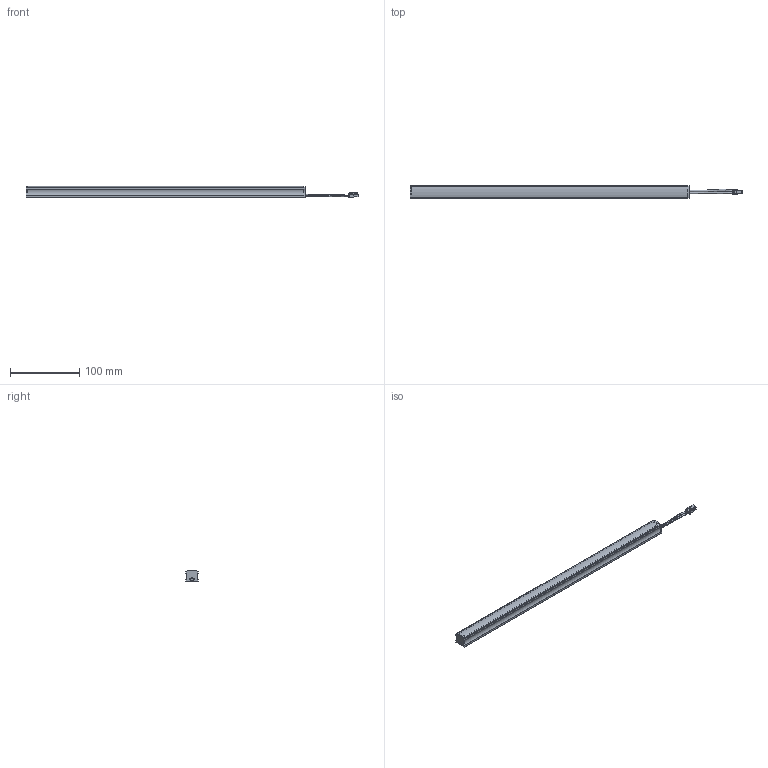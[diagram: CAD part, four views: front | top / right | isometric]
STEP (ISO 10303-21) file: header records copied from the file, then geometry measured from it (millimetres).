
FILE_DESCRIPTION (( 'STEP AP214' ), '1' );
FILE_NAME ('LuganoCompleto.STEP', '2022-02-18T09:56:11', ( '' ), ( '' ), 'SwSTEP 2.0', 'SolidWorks 2021', '' );
FILE_SCHEMA (( 'AUTOMOTIVE_DESIGN' ));
Length unit declared in the file: millimetre
Products named in the file (1): LuganoCompleto
Bounding box: 480.51 x 17.4 x 16.16 mm (x, y, z)
Surface area: 61368.1 mm2 (no closed solid volume)
Topology: 0 solids, 7 shells, 349 faces, 954 edges, 620 vertices
Faces by surface type: plane 207, cylinder 116, bspline 23, sphere 3
Entity records: 19735 total; most frequent: CARTESIAN_POINT 7018, ORIENTED_EDGE 1900, DIRECTION 1754, EDGE_CURVE 950, LINE 652, VECTOR 652, VERTEX_POINT 620, AXIS2_PLACEMENT_3D 551
